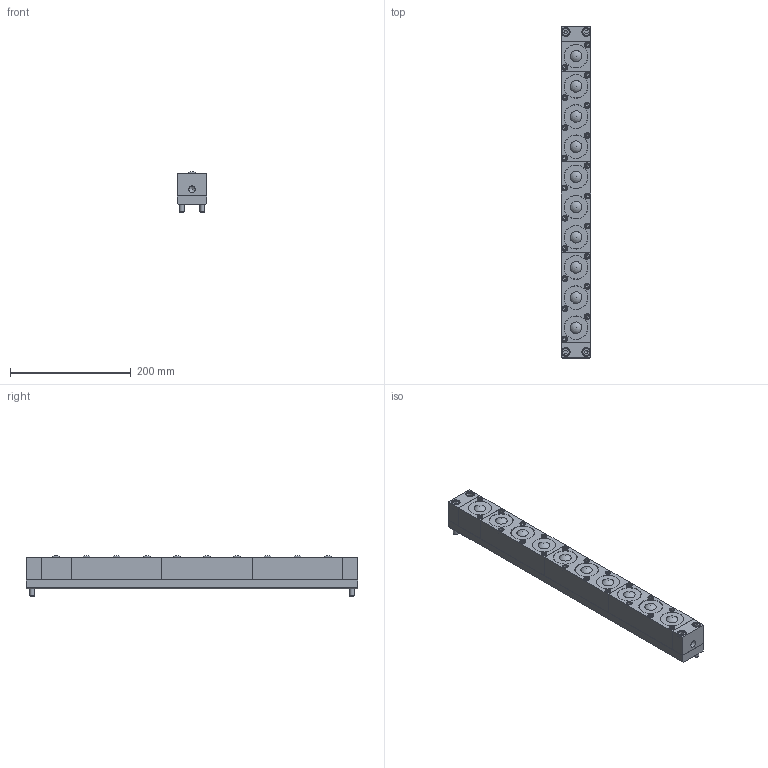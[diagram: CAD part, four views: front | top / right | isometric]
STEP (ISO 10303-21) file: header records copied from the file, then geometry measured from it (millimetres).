
FILE_DESCRIPTION(/* description */ (''),/* implementation_level */ '2;1');
FILE_NAME(/* name */ 'Z:\34-Tei\01-web 3Dデータ\08-ISR-C50S型\ISR-C50S-550-A.stp',/* time_stamp */ '2015-01-15T15:50:55+09:00',/* author */ ('yamaki'),/* organization */ (''),/* preprocessor_version */ 'ST-DEVELOPER v15.6',/* originating_system */ 'Autodesk Inventor 2015',/* authorisation */ '');
FILE_SCHEMA (('AUTOMOTIVE_DESIGN { 1 0 10303 214 3 1 1 }'));
Length unit declared in the file: millimetre
Products named in the file (6): 4200AT-01-550; 4601SL; 4600AA; ISO 4762 - M8 x 55ISO; 4601SL-3; ISR-C50S-100-A
Bounding box: 49.5 x 550 x 67 mm (x, y, z)
Volume: 1357246.4 mm3; surface area: 308070.1 mm2
Topology: 17 solids, 17 shells, 506 faces, 1065 edges, 684 vertices
Faces by surface type: plane 341, cylinder 93, cone 36, torus 26, sphere 10
Full cylindrical faces by diameter (mm): 8 x2, 8.5 x20, 9 x2, 9.5 x20, 10.5 x1, 13 x4, 14.5 x4, 38.7 x10, 39 x10, 42 x20
Entity records: 5953 total; most frequent: CARTESIAN_POINT 1068, DIRECTION 952, ORIENTED_EDGE 828, EDGE_CURVE 414, AXIS2_PLACEMENT_3D 342, EDGE_LOOP 330, VERTEX_POINT 296, LINE 268
